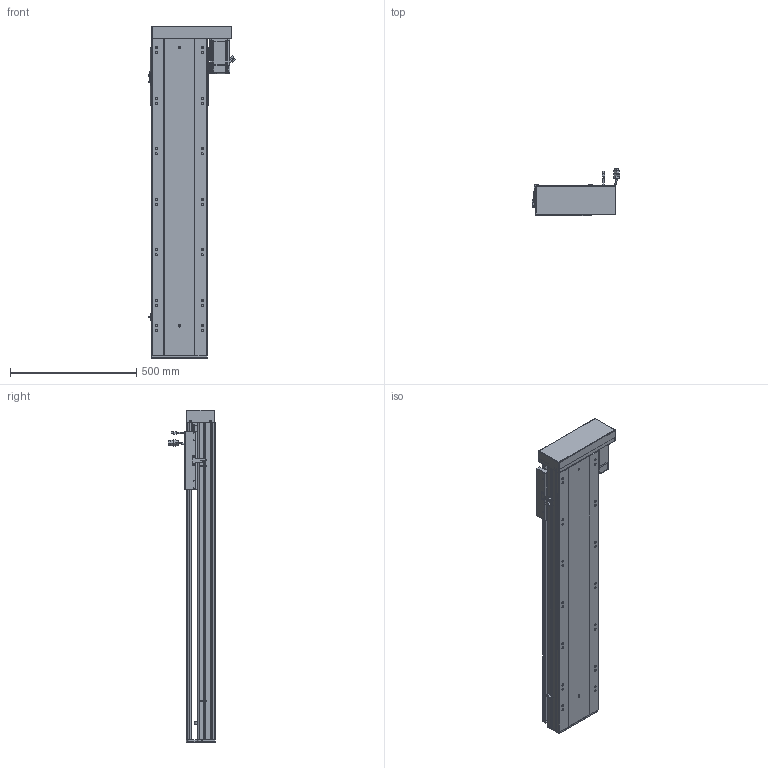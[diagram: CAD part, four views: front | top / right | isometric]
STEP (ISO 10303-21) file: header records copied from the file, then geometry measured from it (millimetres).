
FILE_DESCRIPTION (( 'STEP AP203' ), '1' );
FILE_NAME ('RY220-L2525-800-RK-邧嶺.SLDASM_900.step', '2022-08-06T08:52:39', ( '' ), ( '' ), 'SwSTEP 2.0', 'SolidWorks 2016', '' );
FILE_SCHEMA (( 'CONFIG_CONTROL_DESIGN' ));
Length unit declared in the file: millimetre
Products named in the file (12): RY220左右折电机安装板; RY220綴裔啣; RY220半封闭25-32螺母铝滑块; 怢湛750W_ECMA-CX0807ES; RY220-800-蛌殏奻裔啣_900; RY220蛌殏菁釱-800-邧嶺_900; RY220-L2525-800-RK-邧嶺.SLDASM_900; 滅袉蝶18-10; RY220-俋离672覜茼んえ; 滅袉蝶18-15; 覜茼ん672; RY220酘衵殏萇儂欶
Assembly tree (15 placements, depth 2):
  RY220-L2525-800-RK-邧嶺.SLDASM_900
    RY220蛌殏菁釱-800-邧嶺_900
    RY220-800-蛌殏奻裔啣_900
    怢湛750W_ECMA-CX0807ES
    滅袉蝶18-10  x2
    RY220-俋离672覜茼んえ
    覜茼ん672  x3
    RY220綴裔啣
    RY220半封闭25-32螺母铝滑块
    滅袉蝶18-15  x2
    RY220左右折电机安装板
    RY220酘衵殏萇儂欶
Bounding box: 347.44 x 187.27 x 1314 mm (x, y, z)
Volume: 11088390.3 mm3; surface area: 3230704.8 mm2
Topology: 16 solids, 16 shells, 2159 faces, 5956 edges, 3769 vertices
Faces by surface type: cylinder 967, plane 904, cone 218, bspline 44, sphere 16, torus 10
Entity records: 71219 total; most frequent: CARTESIAN_POINT 20657, ORIENTED_EDGE 10504, DIRECTION 9856, EDGE_CURVE 5252, AXIS2_PLACEMENT_3D 3453, VERTEX_POINT 3425, LINE 2950, VECTOR 2950
